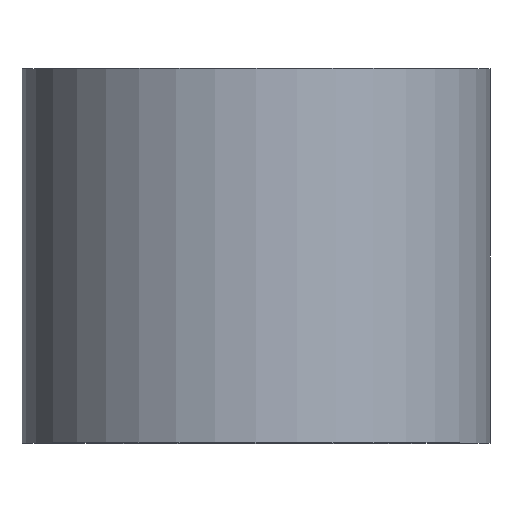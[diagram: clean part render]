
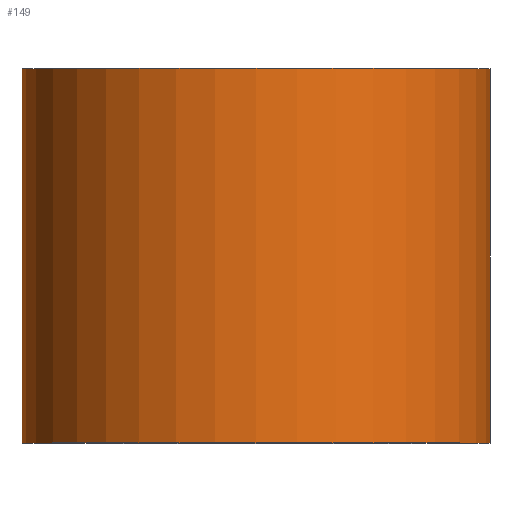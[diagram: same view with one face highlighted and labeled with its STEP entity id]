
A CAD part, top view. The second image highlights one B-rep face of the part: STEP entity #149.
In plain terms, the highlighted cylindrical face has radius 7.5 mm (diameter 15 mm), a partial arc.
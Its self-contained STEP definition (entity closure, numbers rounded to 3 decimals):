
#7 = LINE ( 'NONE', #176, #170 ) ;
#8 = EDGE_CURVE ( 'NONE', #25, #159, #265, .T. ) ;
#10 = ORIENTED_EDGE ( 'NONE', *, *, #55, .T. ) ;
#11 = CIRCLE ( 'NONE', #109, 7.5 ) ;
#25 = VERTEX_POINT ( 'NONE', #298 ) ;
#48 = ORIENTED_EDGE ( 'NONE', *, *, #8, .F. ) ;
#52 = CARTESIAN_POINT ( 'NONE',  ( 7.5, 0., 0. ) ) ;
#54 = CARTESIAN_POINT ( 'NONE',  ( -7.5, 0., 0. ) ) ;
#55 = EDGE_CURVE ( 'NONE', #62, #147, #11, .T. ) ;
#61 = DIRECTION ( 'NONE',  ( 0., 1., 0. ) ) ;
#62 = VERTEX_POINT ( 'NONE', #95 ) ;
#70 = AXIS2_PLACEMENT_3D ( 'NONE', #252, #225, #144 ) ;
#94 = AXIS2_PLACEMENT_3D ( 'NONE', #175, #120, #207 ) ;
#95 = CARTESIAN_POINT ( 'NONE',  ( -7.5, 0., 0. ) ) ;
#96 = CARTESIAN_POINT ( 'NONE',  ( 7.5, 12., 0. ) ) ;
#109 = AXIS2_PLACEMENT_3D ( 'NONE', #178, #256, #282 ) ;
#113 = FACE_OUTER_BOUND ( 'NONE', #114, .T. ) ;
#114 = EDGE_LOOP ( 'NONE', ( #10, #139, #48, #272 ) ) ;
#120 = DIRECTION ( 'NONE',  ( 0., 1., 0. ) ) ;
#139 = ORIENTED_EDGE ( 'NONE', *, *, #167, .T. ) ;
#144 = DIRECTION ( 'NONE',  ( -1., 0., 0. ) ) ;
#147 = VERTEX_POINT ( 'NONE', #52 ) ;
#149 = ADVANCED_FACE ( 'NONE', ( #113 ), #200, .T. ) ;
#159 = VERTEX_POINT ( 'NONE', #96 ) ;
#167 = EDGE_CURVE ( 'NONE', #147, #159, #7, .T. ) ;
#170 = VECTOR ( 'NONE', #208, 1000. ) ;
#175 = CARTESIAN_POINT ( 'NONE',  ( 0., 0., 0. ) ) ;
#176 = CARTESIAN_POINT ( 'NONE',  ( 7.5, 0., 0. ) ) ;
#178 = CARTESIAN_POINT ( 'NONE',  ( 0., 0., 0. ) ) ;
#200 = CYLINDRICAL_SURFACE ( 'NONE', #94, 7.5 ) ;
#207 = DIRECTION ( 'NONE',  ( -1., 0., 0. ) ) ;
#208 = DIRECTION ( 'NONE',  ( 0., 1., 0. ) ) ;
#225 = DIRECTION ( 'NONE',  ( 0., 1., 0. ) ) ;
#238 = VECTOR ( 'NONE', #61, 1000. ) ;
#252 = CARTESIAN_POINT ( 'NONE',  ( 0., 12., 0. ) ) ;
#253 = EDGE_CURVE ( 'NONE', #62, #25, #301, .T. ) ;
#256 = DIRECTION ( 'NONE',  ( 0., 1., 0. ) ) ;
#265 = CIRCLE ( 'NONE', #70, 7.5 ) ;
#272 = ORIENTED_EDGE ( 'NONE', *, *, #253, .F. ) ;
#282 = DIRECTION ( 'NONE',  ( -1., 0., 0. ) ) ;
#298 = CARTESIAN_POINT ( 'NONE',  ( -7.5, 12., 0. ) ) ;
#301 = LINE ( 'NONE', #54, #238 ) ;
